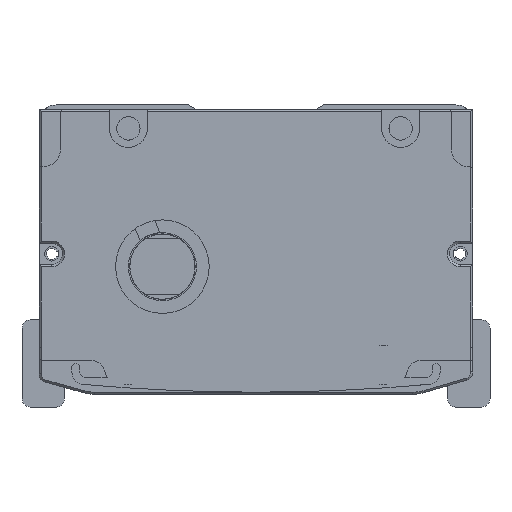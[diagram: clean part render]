
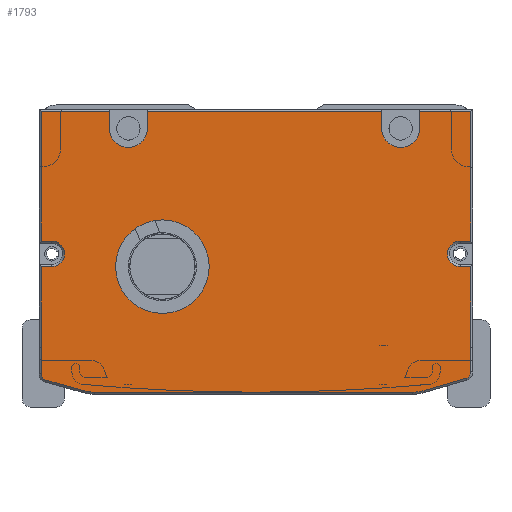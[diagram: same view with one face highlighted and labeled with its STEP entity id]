
A CAD part, front view. The second image highlights one B-rep face of the part: STEP entity #1793.
In plain terms, the highlighted planar face has unit normal (0, -1, 0).
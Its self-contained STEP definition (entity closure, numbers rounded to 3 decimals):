
#1050=FACE_BOUND('',#3703,.T.);
#1051=FACE_BOUND('',#3704,.T.);
#1793=ADVANCED_FACE('',(#1050,#1051),#2526,.F.);
#2526=PLANE('',#14938);
#3703=EDGE_LOOP('',(#6699));
#3704=EDGE_LOOP('',(#6700,#6701,#6702,#6703,#6704,#6705,#6706,#6707,#6708,
#6709,#6710,#6711,#6712,#6713,#6714,#6715,#6716,#6717,#6718,#6719,#6720,
#6721,#6722,#6723,#6724,#6725,#6726,#6727));
#4757=CIRCLE('',#14849,3.);
#4760=CIRCLE('',#14857,3.);
#4763=CIRCLE('',#14869,1.5);
#4765=CIRCLE('',#14873,9.5);
#4767=CIRCLE('',#14877,9.5);
#4769=CIRCLE('',#14881,1.5);
#4774=CIRCLE('',#14896,4.5);
#4778=CIRCLE('',#14902,4.5);
#4779=CIRCLE('',#14911,11.);
#6699=ORIENTED_EDGE('',*,*,#11324,.F.);
#6700=ORIENTED_EDGE('',*,*,#11218,.T.);
#6701=ORIENTED_EDGE('',*,*,#11114,.T.);
#6702=ORIENTED_EDGE('',*,*,#11305,.T.);
#6703=ORIENTED_EDGE('',*,*,#11118,.T.);
#6704=ORIENTED_EDGE('',*,*,#11353,.T.);
#6705=ORIENTED_EDGE('',*,*,#11124,.T.);
#6706=ORIENTED_EDGE('',*,*,#11301,.T.);
#6707=ORIENTED_EDGE('',*,*,#11128,.T.);
#6708=ORIENTED_EDGE('',*,*,#11354,.T.);
#6709=ORIENTED_EDGE('',*,*,#11222,.T.);
#6710=ORIENTED_EDGE('',*,*,#11228,.T.);
#6711=ORIENTED_EDGE('',*,*,#11231,.T.);
#6712=ORIENTED_EDGE('',*,*,#11234,.T.);
#6713=ORIENTED_EDGE('',*,*,#11236,.T.);
#6714=ORIENTED_EDGE('',*,*,#11266,.T.);
#6715=ORIENTED_EDGE('',*,*,#11270,.T.);
#6716=ORIENTED_EDGE('',*,*,#11273,.T.);
#6717=ORIENTED_EDGE('',*,*,#11276,.T.);
#6718=ORIENTED_EDGE('',*,*,#11279,.T.);
#6719=ORIENTED_EDGE('',*,*,#11282,.T.);
#6720=ORIENTED_EDGE('',*,*,#11285,.T.);
#6721=ORIENTED_EDGE('',*,*,#11287,.T.);
#6722=ORIENTED_EDGE('',*,*,#11264,.T.);
#6723=ORIENTED_EDGE('',*,*,#11254,.T.);
#6724=ORIENTED_EDGE('',*,*,#11251,.T.);
#6725=ORIENTED_EDGE('',*,*,#11248,.T.);
#6726=ORIENTED_EDGE('',*,*,#11245,.T.);
#6727=ORIENTED_EDGE('',*,*,#11240,.T.);
#9613=VERTEX_POINT('',#22049);
#9614=VERTEX_POINT('',#22051);
#9617=VERTEX_POINT('',#22058);
#9618=VERTEX_POINT('',#22060);
#9623=VERTEX_POINT('',#22071);
#9624=VERTEX_POINT('',#22073);
#9627=VERTEX_POINT('',#22080);
#9628=VERTEX_POINT('',#22082);
#9686=VERTEX_POINT('',#22268);
#9689=VERTEX_POINT('',#22276);
#9690=VERTEX_POINT('',#22277);
#9695=VERTEX_POINT('',#22288);
#9697=VERTEX_POINT('',#22294);
#9698=VERTEX_POINT('',#22299);
#9700=VERTEX_POINT('',#22305);
#9703=VERTEX_POINT('',#22313);
#9705=VERTEX_POINT('',#22319);
#9707=VERTEX_POINT('',#22325);
#9709=VERTEX_POINT('',#22331);
#9711=VERTEX_POINT('',#22337);
#9718=VERTEX_POINT('',#22361);
#9719=VERTEX_POINT('',#22365);
#9722=VERTEX_POINT('',#22372);
#9724=VERTEX_POINT('',#22378);
#9726=VERTEX_POINT('',#22384);
#9728=VERTEX_POINT('',#22390);
#9730=VERTEX_POINT('',#22396);
#9732=VERTEX_POINT('',#22402);
#9744=VERTEX_POINT('',#22475);
#11114=EDGE_CURVE('',#9614,#9613,#12787,.T.);
#11118=EDGE_CURVE('',#9618,#9617,#12791,.T.);
#11124=EDGE_CURVE('',#9624,#9623,#12797,.T.);
#11128=EDGE_CURVE('',#9628,#9627,#12801,.T.);
#11218=EDGE_CURVE('',#9686,#9614,#12874,.T.);
#11222=EDGE_CURVE('',#9689,#9690,#12878,.T.);
#11228=EDGE_CURVE('',#9690,#9695,#12884,.T.);
#11231=EDGE_CURVE('',#9695,#9697,#4757,.T.);
#11234=EDGE_CURVE('',#9697,#9698,#12888,.T.);
#11236=EDGE_CURVE('',#9698,#9700,#12890,.T.);
#11240=EDGE_CURVE('',#9703,#9686,#12894,.T.);
#11245=EDGE_CURVE('',#9705,#9703,#12899,.T.);
#11248=EDGE_CURVE('',#9707,#9705,#4760,.T.);
#11251=EDGE_CURVE('',#9709,#9707,#12903,.T.);
#11254=EDGE_CURVE('',#9711,#9709,#12906,.T.);
#11264=EDGE_CURVE('',#9718,#9711,#12914,.T.);
#11266=EDGE_CURVE('',#9700,#9719,#12916,.T.);
#11270=EDGE_CURVE('',#9719,#9722,#4763,.T.);
#11273=EDGE_CURVE('',#9722,#9724,#12921,.T.);
#11276=EDGE_CURVE('',#9724,#9726,#4765,.T.);
#11279=EDGE_CURVE('',#9726,#9728,#12925,.T.);
#11282=EDGE_CURVE('',#9728,#9730,#4767,.T.);
#11285=EDGE_CURVE('',#9730,#9732,#12929,.T.);
#11287=EDGE_CURVE('',#9732,#9718,#4769,.T.);
#11301=EDGE_CURVE('',#9623,#9628,#4774,.T.);
#11305=EDGE_CURVE('',#9613,#9618,#4778,.T.);
#11324=EDGE_CURVE('',#9744,#9744,#4779,.T.);
#11353=EDGE_CURVE('',#9617,#9624,#12980,.T.);
#11354=EDGE_CURVE('',#9627,#9689,#12981,.T.);
#12787=LINE('',#22050,#13731);
#12791=LINE('',#22059,#13735);
#12797=LINE('',#22072,#13741);
#12801=LINE('',#22081,#13745);
#12874=LINE('',#22267,#13818);
#12878=LINE('',#22275,#13822);
#12884=LINE('',#22289,#13828);
#12888=LINE('',#22301,#13832);
#12890=LINE('',#22304,#13834);
#12894=LINE('',#22312,#13838);
#12899=LINE('',#22322,#13843);
#12903=LINE('',#22334,#13847);
#12906=LINE('',#22340,#13850);
#12914=LINE('',#22360,#13858);
#12916=LINE('',#22364,#13860);
#12921=LINE('',#22379,#13865);
#12925=LINE('',#22391,#13869);
#12929=LINE('',#22403,#13873);
#12980=LINE('',#22537,#13924);
#12981=LINE('',#22538,#13925);
#13731=VECTOR('',#17131,1.);
#13735=VECTOR('',#17137,1.);
#13741=VECTOR('',#17145,1.);
#13745=VECTOR('',#17151,1.);
#13818=VECTOR('',#17318,1.);
#13822=VECTOR('',#17324,1.);
#13828=VECTOR('',#17332,1.);
#13832=VECTOR('',#17344,1.);
#13834=VECTOR('',#17348,1.);
#13838=VECTOR('',#17354,1.);
#13843=VECTOR('',#17361,1.);
#13847=VECTOR('',#17373,1.);
#13850=VECTOR('',#17378,1.);
#13858=VECTOR('',#17400,1.);
#13860=VECTOR('',#17404,1.);
#13865=VECTOR('',#17417,1.);
#13869=VECTOR('',#17429,1.);
#13873=VECTOR('',#17441,1.);
#13924=VECTOR('',#17608,1.);
#13925=VECTOR('',#17609,1.);
#14849=AXIS2_PLACEMENT_3D('',#22295,#17337,#17338);
#14857=AXIS2_PLACEMENT_3D('',#22328,#17367,#17368);
#14869=AXIS2_PLACEMENT_3D('',#22373,#17410,#17411);
#14873=AXIS2_PLACEMENT_3D('',#22385,#17422,#17423);
#14877=AXIS2_PLACEMENT_3D('',#22397,#17434,#17435);
#14881=AXIS2_PLACEMENT_3D('',#22406,#17445,#17446);
#14896=AXIS2_PLACEMENT_3D('',#22432,#17484,#17485);
#14902=AXIS2_PLACEMENT_3D('',#22440,#17496,#17497);
#14911=AXIS2_PLACEMENT_3D('',#22474,#17532,#17533);
#14938=AXIS2_PLACEMENT_3D('',#22539,#17610,#17611);
#17131=DIRECTION('',(0.,0.,-1.));
#17137=DIRECTION('',(0.,0.,1.));
#17145=DIRECTION('',(0.,0.,-1.));
#17151=DIRECTION('',(0.,0.,1.));
#17318=DIRECTION('',(-1.,0.,0.));
#17324=DIRECTION('',(0.,0.,-1.));
#17332=DIRECTION('',(1.,0.,0.));
#17337=DIRECTION('',(0.,1.,0.));
#17338=DIRECTION('',(0.,0.,1.));
#17344=DIRECTION('',(-1.,0.,0.));
#17348=DIRECTION('',(0.,0.,-1.));
#17354=DIRECTION('',(0.,0.,1.));
#17361=DIRECTION('',(1.,0.,0.));
#17367=DIRECTION('',(0.,1.,0.));
#17368=DIRECTION('',(0.,0.,1.));
#17373=DIRECTION('',(-1.,0.,0.));
#17378=DIRECTION('',(0.,0.,1.));
#17400=DIRECTION('',(0.,0.,1.));
#17404=DIRECTION('',(0.,0.,-1.));
#17410=DIRECTION('',(0.,-1.,0.));
#17411=DIRECTION('',(0.,0.,1.));
#17417=DIRECTION('',(0.963,0.,-0.269));
#17422=DIRECTION('',(0.,-1.,0.));
#17423=DIRECTION('',(0.,0.,1.));
#17429=DIRECTION('',(1.,0.,0.));
#17434=DIRECTION('',(0.,-1.,0.));
#17435=DIRECTION('',(0.,0.,1.));
#17441=DIRECTION('',(0.959,0.,0.282));
#17445=DIRECTION('',(0.,-1.,0.));
#17446=DIRECTION('',(0.,0.,1.));
#17484=DIRECTION('',(0.,1.,0.));
#17485=DIRECTION('',(0.,0.,1.));
#17496=DIRECTION('',(0.,1.,0.));
#17497=DIRECTION('',(0.,0.,1.));
#17532=DIRECTION('',(0.,-1.,0.));
#17533=DIRECTION('',(0.,0.,1.));
#17608=DIRECTION('',(-1.,0.,0.));
#17609=DIRECTION('',(-1.,0.,0.));
#17610=DIRECTION('',(0.,1.,0.));
#17611=DIRECTION('',(1.,0.,0.));
#22049=CARTESIAN_POINT('',(35.308,-757.5,-5.5));
#22050=CARTESIAN_POINT('',(35.308,-757.5,-1.));
#22051=CARTESIAN_POINT('',(35.308,-757.5,-1.5));
#22058=CARTESIAN_POINT('',(26.308,-757.5,-1.5));
#22059=CARTESIAN_POINT('',(26.308,-757.5,-1.));
#22060=CARTESIAN_POINT('',(26.308,-757.5,-5.5));
#22071=CARTESIAN_POINT('',(-28.692,-757.5,-5.5));
#22072=CARTESIAN_POINT('',(-28.692,-757.5,-1.));
#22073=CARTESIAN_POINT('',(-28.692,-757.5,-1.5));
#22080=CARTESIAN_POINT('',(-37.692,-757.5,-1.5));
#22081=CARTESIAN_POINT('',(-37.692,-757.5,-1.));
#22082=CARTESIAN_POINT('',(-37.692,-757.5,-5.5));
#22267=CARTESIAN_POINT('',(-53.692,-757.5,-1.5));
#22268=CARTESIAN_POINT('',(47.308,-757.5,-1.5));
#22275=CARTESIAN_POINT('',(-53.692,-757.5,-32.5));
#22276=CARTESIAN_POINT('',(-53.692,-757.5,-1.5));
#22277=CARTESIAN_POINT('',(-53.692,-757.5,-32.));
#22288=CARTESIAN_POINT('',(-51.192,-757.5,-32.));
#22289=CARTESIAN_POINT('',(-3.192,-757.5,-32.));
#22294=CARTESIAN_POINT('',(-51.192,-757.5,-38.));
#22295=CARTESIAN_POINT('',(-51.192,-757.5,-35.));
#22299=CARTESIAN_POINT('',(-53.692,-757.5,-38.));
#22301=CARTESIAN_POINT('',(-3.192,-757.5,-38.));
#22304=CARTESIAN_POINT('',(-53.692,-757.5,-57.));
#22305=CARTESIAN_POINT('',(-53.692,-757.5,-57.));
#22312=CARTESIAN_POINT('',(47.308,-757.5,-1.5));
#22313=CARTESIAN_POINT('',(47.308,-757.5,-32.));
#22319=CARTESIAN_POINT('',(44.808,-757.5,-32.));
#22322=CARTESIAN_POINT('',(-3.192,-757.5,-32.));
#22325=CARTESIAN_POINT('',(44.808,-757.5,-38.));
#22328=CARTESIAN_POINT('',(44.808,-757.5,-35.));
#22331=CARTESIAN_POINT('',(47.308,-757.5,-38.));
#22334=CARTESIAN_POINT('',(-3.192,-757.5,-38.));
#22337=CARTESIAN_POINT('',(47.308,-757.5,-57.));
#22340=CARTESIAN_POINT('',(47.308,-757.5,-37.5));
#22360=CARTESIAN_POINT('',(47.308,-757.5,-37.5));
#22361=CARTESIAN_POINT('',(47.308,-757.5,-62.758));
#22364=CARTESIAN_POINT('',(-53.692,-757.5,-59.712));
#22365=CARTESIAN_POINT('',(-53.692,-757.5,-63.212));
#22372=CARTESIAN_POINT('',(-52.596,-757.5,-64.657));
#22373=CARTESIAN_POINT('',(-52.192,-757.5,-63.212));
#22378=CARTESIAN_POINT('',(-43.674,-757.5,-67.15));
#22379=CARTESIAN_POINT('',(-43.674,-757.5,-67.15));
#22384=CARTESIAN_POINT('',(-41.118,-757.5,-67.5));
#22385=CARTESIAN_POINT('',(-41.118,-757.5,-58.));
#22390=CARTESIAN_POINT('',(33.631,-757.5,-67.5));
#22391=CARTESIAN_POINT('',(33.631,-757.5,-67.5));
#22396=CARTESIAN_POINT('',(36.312,-757.5,-67.114));
#22397=CARTESIAN_POINT('',(33.631,-757.5,-58.));
#22402=CARTESIAN_POINT('',(46.231,-757.5,-64.197));
#22403=CARTESIAN_POINT('',(46.231,-757.5,-64.197));
#22406=CARTESIAN_POINT('',(45.808,-757.5,-62.758));
#22432=CARTESIAN_POINT('',(-33.192,-757.5,-5.5));
#22440=CARTESIAN_POINT('',(30.808,-757.5,-5.5));
#22474=CARTESIAN_POINT('',(-25.192,-757.5,-38.));
#22475=CARTESIAN_POINT('',(-25.192,-757.5,-27.));
#22537=CARTESIAN_POINT('',(-53.692,-757.5,-1.5));
#22538=CARTESIAN_POINT('',(-53.692,-757.5,-1.5));
#22539=CARTESIAN_POINT('',(-3.192,-757.5,-1.));
